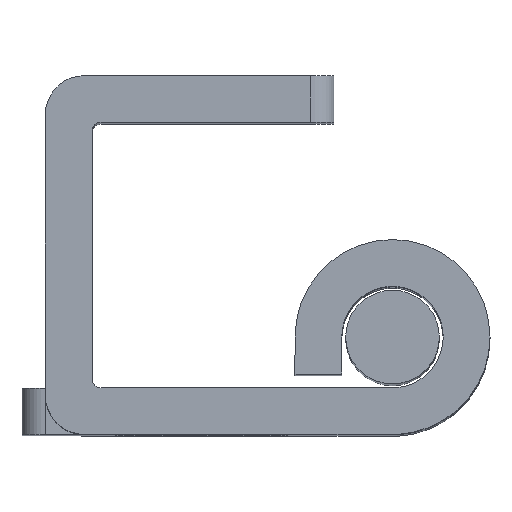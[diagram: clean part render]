
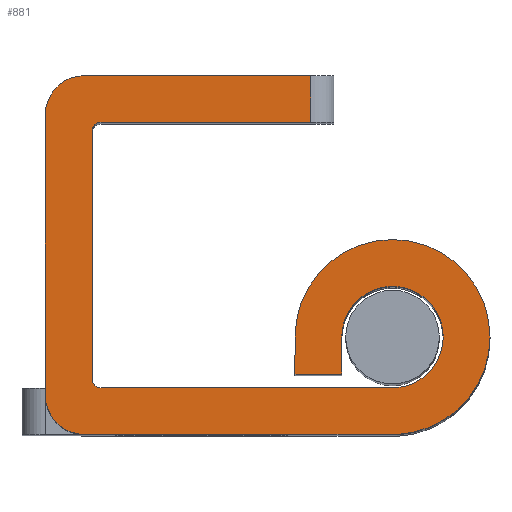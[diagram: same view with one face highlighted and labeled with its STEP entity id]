
A CAD part, top view. The second image highlights one B-rep face of the part: STEP entity #881.
In plain terms, the highlighted planar face has unit normal (0, 0, 1).
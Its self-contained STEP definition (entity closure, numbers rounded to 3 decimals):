
#23 = EDGE_CURVE ( 'NONE', #1512, #819, #1083, .T. ) ;
#90 = VERTEX_POINT ( 'NONE', #5526 ) ;
#117 = LINE ( 'NONE', #2455, #254 ) ;
#167 = VECTOR ( 'NONE', #1740, 1000. ) ;
#218 = ORIENTED_EDGE ( 'NONE', *, *, #23, .T. ) ;
#254 = VECTOR ( 'NONE', #4261, 1000. ) ;
#256 = DIRECTION ( 'NONE',  ( 0., 0., -1. ) ) ;
#260 = EDGE_CURVE ( 'NONE', #819, #786, #2959, .T. ) ;
#328 = DIRECTION ( 'NONE',  ( 0., 0., 1. ) ) ;
#358 = VERTEX_POINT ( 'NONE', #1208 ) ;
#379 = CARTESIAN_POINT ( 'NONE',  ( -20.048, 2.5, 35.5 ) ) ;
#444 = CIRCLE ( 'NONE', #5848, 6.25 ) ;
#572 = ORIENTED_EDGE ( 'NONE', *, *, #2984, .T. ) ;
#605 = CARTESIAN_POINT ( 'NONE',  ( -19.048, 3., 35.5 ) ) ;
#623 = VERTEX_POINT ( 'NONE', #4477 ) ;
#683 = VECTOR ( 'NONE', #2846, 1000. ) ;
#733 = ORIENTED_EDGE ( 'NONE', *, *, #935, .F. ) ;
#739 = VECTOR ( 'NONE', #2358, 1000. ) ;
#776 = CIRCLE ( 'NONE', #5609, 2.5 ) ;
#786 = VERTEX_POINT ( 'NONE', #1923 ) ;
#789 = VERTEX_POINT ( 'NONE', #3351 ) ;
#819 = VERTEX_POINT ( 'NONE', #4586 ) ;
#881 = ADVANCED_FACE ( 'NONE', ( #3758 ), #5564, .F. ) ;
#889 = VERTEX_POINT ( 'NONE', #3323 ) ;
#935 = EDGE_CURVE ( 'NONE', #889, #4910, #3262, .T. ) ;
#944 = VERTEX_POINT ( 'NONE', #605 ) ;
#963 = DIRECTION ( 'NONE',  ( 1., 0., 0. ) ) ;
#986 = DIRECTION ( 'NONE',  ( 0., 0., 1. ) ) ;
#993 = DIRECTION ( 'NONE',  ( -1., 0., 0. ) ) ;
#1064 = DIRECTION ( 'NONE',  ( 0., -1., 0. ) ) ;
#1082 = AXIS2_PLACEMENT_3D ( 'NONE', #5454, #256, #3999 ) ;
#1083 = LINE ( 'NONE', #1526, #739 ) ;
#1090 = ORIENTED_EDGE ( 'NONE', *, *, #4931, .F. ) ;
#1091 = CARTESIAN_POINT ( 'NONE',  ( -4.048, 20., 35.5 ) ) ;
#1119 = ORIENTED_EDGE ( 'NONE', *, *, #4298, .T. ) ;
#1208 = CARTESIAN_POINT ( 'NONE',  ( -22.548, 2.5, 35.5 ) ) ;
#1241 = CARTESIAN_POINT ( 'NONE',  ( -22.548, 0., 35.5 ) ) ;
#1242 = ORIENTED_EDGE ( 'NONE', *, *, #1424, .F. ) ;
#1244 = EDGE_CURVE ( 'NONE', #2115, #5699, #1432, .T. ) ;
#1269 = VERTEX_POINT ( 'NONE', #4578 ) ;
#1329 = DIRECTION ( 'NONE',  ( 1., 0., 0. ) ) ;
#1414 = DIRECTION ( 'NONE',  ( -1., 0., 0. ) ) ;
#1424 = EDGE_CURVE ( 'NONE', #944, #2115, #117, .T. ) ;
#1432 = CIRCLE ( 'NONE', #2205, 3.25 ) ;
#1469 = VECTOR ( 'NONE', #3923, 1000. ) ;
#1493 = AXIS2_PLACEMENT_3D ( 'NONE', #5319, #328, #1763 ) ;
#1512 = VERTEX_POINT ( 'NONE', #2661 ) ;
#1526 = CARTESIAN_POINT ( 'NONE',  ( -5.548, 23., 35.5 ) ) ;
#1595 = LINE ( 'NONE', #1241, #2823 ) ;
#1605 = CIRCLE ( 'NONE', #1493, 3.25 ) ;
#1661 = DIRECTION ( 'NONE',  ( -1., 0., 0. ) ) ;
#1685 = CARTESIAN_POINT ( 'NONE',  ( -0.298, 6.243, 35.5 ) ) ;
#1738 = VERTEX_POINT ( 'NONE', #4512 ) ;
#1740 = DIRECTION ( 'NONE',  ( -1., 0., 0. ) ) ;
#1763 = DIRECTION ( 'NONE',  ( 1., 0., 0. ) ) ;
#1783 = AXIS2_PLACEMENT_3D ( 'NONE', #3653, #5462, #993 ) ;
#1833 = CIRCLE ( 'NONE', #1082, 0.5 ) ;
#1902 = ORIENTED_EDGE ( 'NONE', *, *, #2758, .T. ) ;
#1923 = CARTESIAN_POINT ( 'NONE',  ( -20.048, 23., 35.5 ) ) ;
#1980 = ORIENTED_EDGE ( 'NONE', *, *, #260, .T. ) ;
#2005 = DIRECTION ( 'NONE',  ( -1., 0., 0. ) ) ;
#2103 = CARTESIAN_POINT ( 'NONE',  ( -0.083, 3., 35.5 ) ) ;
#2115 = VERTEX_POINT ( 'NONE', #2103 ) ;
#2122 = EDGE_CURVE ( 'NONE', #1738, #623, #2577, .T. ) ;
#2205 = AXIS2_PLACEMENT_3D ( 'NONE', #2745, #4548, #963 ) ;
#2269 = VERTEX_POINT ( 'NONE', #2421 ) ;
#2306 = CARTESIAN_POINT ( 'NONE',  ( -19.548, 23., 35.5 ) ) ;
#2322 = ORIENTED_EDGE ( 'NONE', *, *, #4579, .F. ) ;
#2358 = DIRECTION ( 'NONE',  ( 0., 1., 0. ) ) ;
#2370 = DIRECTION ( 'NONE',  ( 0., 0., -1. ) ) ;
#2421 = CARTESIAN_POINT ( 'NONE',  ( -20.048, 0., 35.5 ) ) ;
#2443 = VECTOR ( 'NONE', #2005, 1000. ) ;
#2455 = CARTESIAN_POINT ( 'NONE',  ( -22.548, 3., 35.5 ) ) ;
#2577 = LINE ( 'NONE', #5259, #1469 ) ;
#2610 = AXIS2_PLACEMENT_3D ( 'NONE', #3427, #986, #5225 ) ;
#2661 = CARTESIAN_POINT ( 'NONE',  ( -5.548, 20., 35.5 ) ) ;
#2680 = ORIENTED_EDGE ( 'NONE', *, *, #3533, .T. ) ;
#2689 = CIRCLE ( 'NONE', #3160, 6.25 ) ;
#2716 = ORIENTED_EDGE ( 'NONE', *, *, #1244, .F. ) ;
#2745 = CARTESIAN_POINT ( 'NONE',  ( -0.298, 6.243, 35.5 ) ) ;
#2758 = EDGE_CURVE ( 'NONE', #358, #2269, #776, .T. ) ;
#2823 = VECTOR ( 'NONE', #4349, 1000. ) ;
#2846 = DIRECTION ( 'NONE',  ( 0., -1., 0. ) ) ;
#2882 = ORIENTED_EDGE ( 'NONE', *, *, #5042, .F. ) ;
#2940 = CARTESIAN_POINT ( 'NONE',  ( -22.548, 23., 35.5 ) ) ;
#2959 = LINE ( 'NONE', #5171, #2443 ) ;
#2984 = EDGE_CURVE ( 'NONE', #786, #4913, #3248, .T. ) ;
#3003 = EDGE_CURVE ( 'NONE', #889, #90, #1833, .T. ) ;
#3131 = AXIS2_PLACEMENT_3D ( 'NONE', #5537, #2370, #1414 ) ;
#3160 = AXIS2_PLACEMENT_3D ( 'NONE', #3549, #4943, #1329 ) ;
#3248 = CIRCLE ( 'NONE', #2610, 2.5 ) ;
#3262 = LINE ( 'NONE', #2306, #4926 ) ;
#3323 = CARTESIAN_POINT ( 'NONE',  ( -19.548, 19.5, 35.5 ) ) ;
#3351 = CARTESIAN_POINT ( 'NONE',  ( -3.548, 6.243, 35.5 ) ) ;
#3357 = EDGE_CURVE ( 'NONE', #789, #3446, #5090, .T. ) ;
#3427 = CARTESIAN_POINT ( 'NONE',  ( -20.048, 20.5, 35.5 ) ) ;
#3446 = VERTEX_POINT ( 'NONE', #3992 ) ;
#3523 = DIRECTION ( 'NONE',  ( 1., 0., 0. ) ) ;
#3533 = EDGE_CURVE ( 'NONE', #1269, #1738, #2689, .T. ) ;
#3549 = CARTESIAN_POINT ( 'NONE',  ( -0.298, 6.243, 35.5 ) ) ;
#3572 = DIRECTION ( 'NONE',  ( 0., 0., 1. ) ) ;
#3653 = CARTESIAN_POINT ( 'NONE',  ( -19.048, 3.5, 35.5 ) ) ;
#3715 = ORIENTED_EDGE ( 'NONE', *, *, #2122, .T. ) ;
#3758 = FACE_OUTER_BOUND ( 'NONE', #5364, .T. ) ;
#3910 = CARTESIAN_POINT ( 'NONE',  ( -19.548, 3.5, 35.5 ) ) ;
#3923 = DIRECTION ( 'NONE',  ( 0., -1., 0. ) ) ;
#3935 = LINE ( 'NONE', #1091, #4059 ) ;
#3992 = CARTESIAN_POINT ( 'NONE',  ( -3.548, 3.872, 35.5 ) ) ;
#3999 = DIRECTION ( 'NONE',  ( -1., 0., 0. ) ) ;
#4011 = DIRECTION ( 'NONE',  ( 0., 0., 1. ) ) ;
#4059 = VECTOR ( 'NONE', #1661, 1000. ) ;
#4064 = VERTEX_POINT ( 'NONE', #4103 ) ;
#4103 = CARTESIAN_POINT ( 'NONE',  ( 0., 0., 35.5 ) ) ;
#4261 = DIRECTION ( 'NONE',  ( 1., 0., 0. ) ) ;
#4267 = CARTESIAN_POINT ( 'NONE',  ( -3.548, 6.243, 35.5 ) ) ;
#4298 = EDGE_CURVE ( 'NONE', #2269, #4064, #1595, .T. ) ;
#4349 = DIRECTION ( 'NONE',  ( 1., 0., 0. ) ) ;
#4477 = CARTESIAN_POINT ( 'NONE',  ( -6.548, 3.872, 35.5 ) ) ;
#4492 = ORIENTED_EDGE ( 'NONE', *, *, #4847, .T. ) ;
#4512 = CARTESIAN_POINT ( 'NONE',  ( -6.548, 6.243, 35.5 ) ) ;
#4548 = DIRECTION ( 'NONE',  ( 0., 0., 1. ) ) ;
#4562 = ORIENTED_EDGE ( 'NONE', *, *, #5306, .T. ) ;
#4578 = CARTESIAN_POINT ( 'NONE',  ( 5.952, 6.243, 35.5 ) ) ;
#4579 = EDGE_CURVE ( 'NONE', #5699, #789, #1605, .T. ) ;
#4586 = CARTESIAN_POINT ( 'NONE',  ( -5.548, 23., 35.5 ) ) ;
#4847 = EDGE_CURVE ( 'NONE', #4913, #358, #5218, .T. ) ;
#4910 = VERTEX_POINT ( 'NONE', #3910 ) ;
#4912 = VECTOR ( 'NONE', #5654, 1000. ) ;
#4913 = VERTEX_POINT ( 'NONE', #5149 ) ;
#4926 = VECTOR ( 'NONE', #1064, 1000. ) ;
#4931 = EDGE_CURVE ( 'NONE', #1512, #90, #3935, .T. ) ;
#4934 = DIRECTION ( 'NONE',  ( -1., 0., 0. ) ) ;
#4942 = LINE ( 'NONE', #5350, #167 ) ;
#4943 = DIRECTION ( 'NONE',  ( 0., 0., 1. ) ) ;
#5037 = EDGE_CURVE ( 'NONE', #4064, #1269, #444, .T. ) ;
#5042 = EDGE_CURVE ( 'NONE', #3446, #623, #4942, .T. ) ;
#5085 = ORIENTED_EDGE ( 'NONE', *, *, #3357, .F. ) ;
#5090 = LINE ( 'NONE', #4267, #683 ) ;
#5148 = ORIENTED_EDGE ( 'NONE', *, *, #3003, .T. ) ;
#5149 = CARTESIAN_POINT ( 'NONE',  ( -22.548, 20.5, 35.5 ) ) ;
#5171 = CARTESIAN_POINT ( 'NONE',  ( -4.048, 23., 35.5 ) ) ;
#5218 = LINE ( 'NONE', #2940, #4912 ) ;
#5225 = DIRECTION ( 'NONE',  ( -1., 0., 0. ) ) ;
#5259 = CARTESIAN_POINT ( 'NONE',  ( -6.548, 6.243, 35.5 ) ) ;
#5288 = CIRCLE ( 'NONE', #1783, 0.5 ) ;
#5306 = EDGE_CURVE ( 'NONE', #944, #4910, #5288, .T. ) ;
#5319 = CARTESIAN_POINT ( 'NONE',  ( -0.298, 6.243, 35.5 ) ) ;
#5350 = CARTESIAN_POINT ( 'NONE',  ( -6.548, 3.872, 35.5 ) ) ;
#5364 = EDGE_LOOP ( 'NONE', ( #1090, #218, #1980, #572, #4492, #1902, #1119, #5653, #2680, #3715, #2882, #5085, #2322, #2716, #1242, #4562, #733, #5148 ) ) ;
#5454 = CARTESIAN_POINT ( 'NONE',  ( -19.048, 19.5, 35.5 ) ) ;
#5462 = DIRECTION ( 'NONE',  ( 0., 0., -1. ) ) ;
#5526 = CARTESIAN_POINT ( 'NONE',  ( -19.048, 20., 35.5 ) ) ;
#5537 = CARTESIAN_POINT ( 'NONE',  ( -4.048, 23., 35.5 ) ) ;
#5542 = CARTESIAN_POINT ( 'NONE',  ( 2.952, 6.243, 35.5 ) ) ;
#5564 = PLANE ( 'NONE',  #3131 ) ;
#5609 = AXIS2_PLACEMENT_3D ( 'NONE', #379, #4011, #4934 ) ;
#5653 = ORIENTED_EDGE ( 'NONE', *, *, #5037, .T. ) ;
#5654 = DIRECTION ( 'NONE',  ( 0., -1., 0. ) ) ;
#5699 = VERTEX_POINT ( 'NONE', #5542 ) ;
#5848 = AXIS2_PLACEMENT_3D ( 'NONE', #1685, #3572, #3523 ) ;
